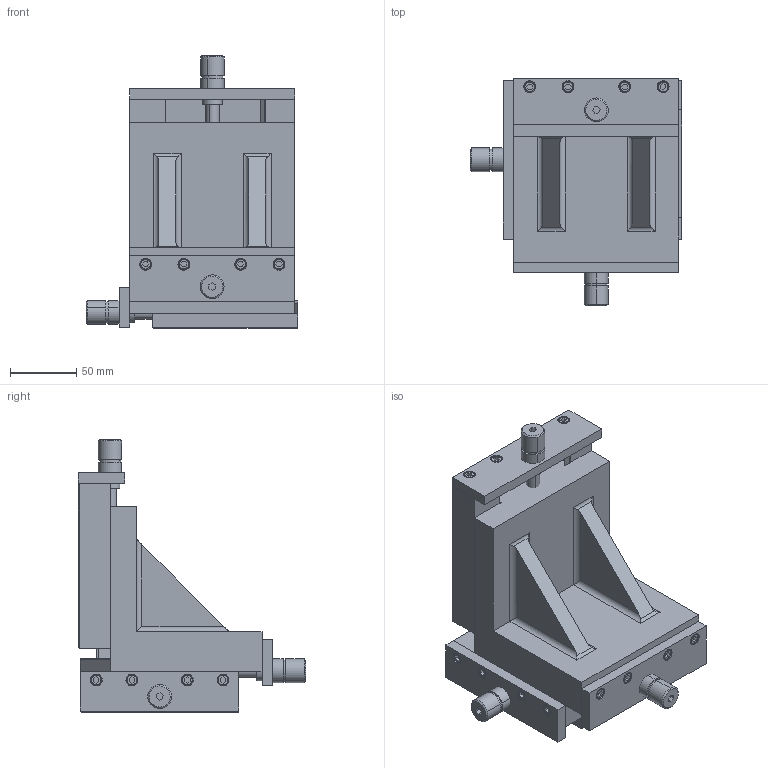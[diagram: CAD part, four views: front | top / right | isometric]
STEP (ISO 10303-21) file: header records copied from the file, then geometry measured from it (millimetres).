
FILE_DESCRIPTION(('STEP AP214'),'1');
FILE_NAME('tmp0.stp','2020-10-08T14:27:15',(' '),(' '),'Spatial InterOp 3D',' ',' ');
FILE_SCHEMA(('automotive_design'));
Length unit declared in the file: millimetre
Products named in the file (26): C125G_StepAP214|NONE#403.360.00;NONE; C125G_StepAP214|NONE#DIN_912;NONE; C125G_StepAP214|NONE#403.354.00;NONE; C125G_StepAP214|NONE#403.351.00;NONE; C125G_StepAP214|NONE#403.347.00;NONE; C125G_StepAP214|NONE#403.342.00;NONE; C125G_StepAP214|NONE#403.343.00;NONE; C125G_StepAP214|NONE#403.341.00;NONE; C125G_StepAP214|NONE#403.345.00;NONE; 1
Bounding box: 160.5 x 172 x 206.5 mm (x, y, z)
Volume: 1610578.8 mm3; surface area: 301673.1 mm2
Topology: 25 solids, 25 shells, 649 faces, 1520 edges, 958 vertices
Faces by surface type: plane 299, cylinder 250, cone 76, torus 24
Entity records: 25042 total; most frequent: CARTESIAN_POINT 4113, DIRECTION 3290, ORIENTED_EDGE 2958, EDGE_CURVE 1479, AXIS2_PLACEMENT_3D 1201, VERTEX_POINT 956, LINE 888, VECTOR 888
